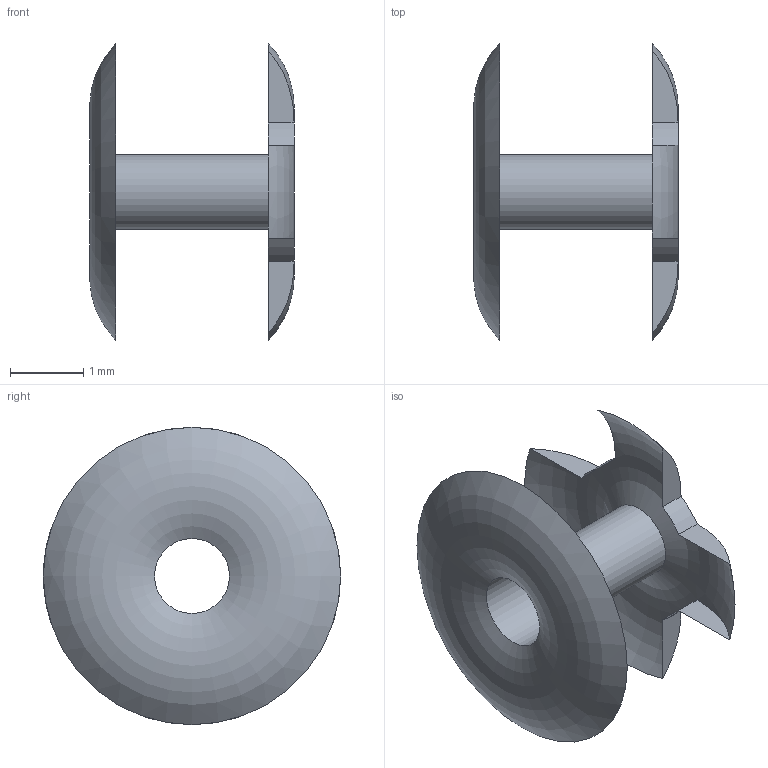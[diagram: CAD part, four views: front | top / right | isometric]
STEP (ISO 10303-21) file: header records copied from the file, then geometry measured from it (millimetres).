
FILE_DESCRIPTION(/* description */ ('STEP AP242 Edition 2','CAx-IF Rec.Pracs.---Representation and Presentation of Product Manufacturing Information (PMI)---4.0---2014-10-13','CAx-IF Rec.Pracs.---3D Tessellated Geometry---0.4---2014-09-14','2;1','CAx-IF Rec.Pracs.---User Defined Attributes---1.5---2016-08-15'),/* implementation_level */ '2;1');
FILE_NAME(/* name */ 'Part Studio 1 - Surface 32',/* time_stamp */ '2026-11-25T23:28:52Z',/* author */ (''),/* organization */ (''),/* preprocessor_version */ 'ST-DEVELOPER v20',/* originating_system */ 'ONSHAPE BY PTC INC, 1.224',/* authorisation */ ' ');
FILE_SCHEMA (('AP242_MANAGED_MODEL_BASED_3D_ENGINEERING_MIM_LF { 1 0 10303 442 3 1 4 }'));
Length unit declared in the file: metre
Products named in the file (1): NONE
Bounding box: 2.79 x 4.06 x 4.06 mm (x, y, z)
Surface area: 31.8 mm2 (no closed solid volume)
Topology: 0 solids, 1 shells, 13 faces, 41 edges, 28 vertices
Faces by surface type: plane 6, cylinder 5, torus 2
Full cylindrical faces by diameter (mm): 1.024 x1
Entity records: 448 total; most frequent: CARTESIAN_POINT 102, DIRECTION 72, ORIENTED_EDGE 55, EDGE_CURVE 37, AXIS2_PLACEMENT_3D 29, VERTEX_POINT 27, EDGE_LOOP 16, FACE_BOUND 16
